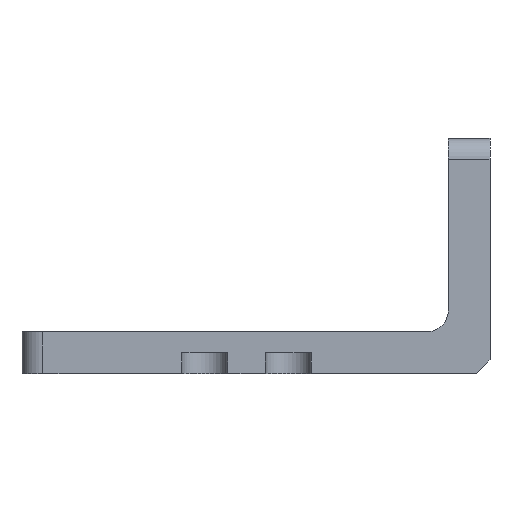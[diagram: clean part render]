
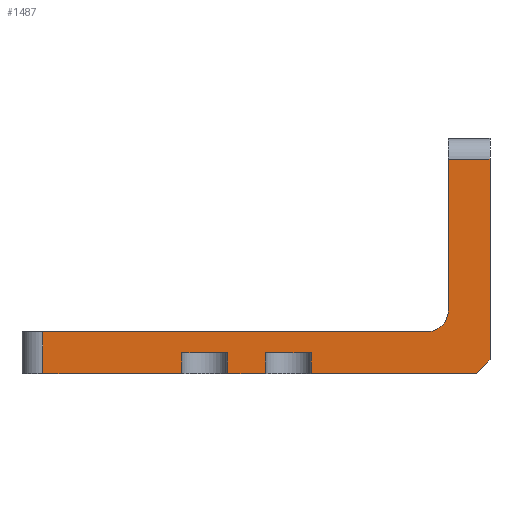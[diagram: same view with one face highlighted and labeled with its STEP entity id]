
A CAD part, left-side view. The second image highlights one B-rep face of the part: STEP entity #1487.
In plain terms, the highlighted planar face has unit normal (-1, 0, 0).
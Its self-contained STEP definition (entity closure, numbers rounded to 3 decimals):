
#52 = ORIENTED_EDGE ( 'NONE', *, *, #1944, .T. ) ;
#63 = AXIS2_PLACEMENT_3D ( 'NONE', #2925, #2602, #2914 ) ;
#64 = CARTESIAN_POINT ( 'NONE',  ( -10., -18.4, 22.5 ) ) ;
#77 = VERTEX_POINT ( 'NONE', #1079 ) ;
#93 = VECTOR ( 'NONE', #656, 1000. ) ;
#135 = CARTESIAN_POINT ( 'NONE',  ( -10., 7.1, 2. ) ) ;
#195 = CARTESIAN_POINT ( 'NONE',  ( -10., 7.1, 6.833 ) ) ;
#235 = VERTEX_POINT ( 'NONE', #2452 ) ;
#267 = LINE ( 'NONE', #2215, #1075 ) ;
#335 = DIRECTION ( 'NONE',  ( 0., -1., 0. ) ) ;
#358 = VECTOR ( 'NONE', #2317, 1000. ) ;
#413 = VERTEX_POINT ( 'NONE', #2299 ) ;
#416 = ORIENTED_EDGE ( 'NONE', *, *, #1093, .F. ) ;
#435 = CARTESIAN_POINT ( 'NONE',  ( -10., -21.1, 0. ) ) ;
#463 = PLANE ( 'NONE',  #63 ) ;
#488 = LINE ( 'NONE', #3096, #93 ) ;
#495 = CARTESIAN_POINT ( 'NONE',  ( -10., -0.9, 0. ) ) ;
#501 = VERTEX_POINT ( 'NONE', #135 ) ;
#506 = VECTOR ( 'NONE', #2797, 1000. ) ;
#518 = DIRECTION ( 'NONE',  ( 0., -1., 0. ) ) ;
#590 = DIRECTION ( 'NONE',  ( 0., 0., -1. ) ) ;
#599 = VERTEX_POINT ( 'NONE', #2358 ) ;
#605 = AXIS2_PLACEMENT_3D ( 'NONE', #1384, #3052, #590 ) ;
#616 = VECTOR ( 'NONE', #1336, 1000. ) ;
#643 = CARTESIAN_POINT ( 'NONE',  ( -10., 2.7, 2. ) ) ;
#656 = DIRECTION ( 'NONE',  ( 0., 1., 0. ) ) ;
#661 = EDGE_CURVE ( 'NONE', #501, #1377, #3536, .T. ) ;
#755 = CARTESIAN_POINT ( 'NONE',  ( -10., 20.4, 4. ) ) ;
#771 = VERTEX_POINT ( 'NONE', #2521 ) ;
#790 = ORIENTED_EDGE ( 'NONE', *, *, #2378, .T. ) ;
#902 = CARTESIAN_POINT ( 'NONE',  ( -10., -5.3, 0. ) ) ;
#985 = CARTESIAN_POINT ( 'NONE',  ( -10., -22.4, 1.3 ) ) ;
#1015 = CARTESIAN_POINT ( 'NONE',  ( -10., 20.4, 4. ) ) ;
#1067 = ORIENTED_EDGE ( 'NONE', *, *, #3515, .T. ) ;
#1075 = VECTOR ( 'NONE', #1948, 1000. ) ;
#1079 = CARTESIAN_POINT ( 'NONE',  ( -10., -0.9, 2. ) ) ;
#1093 = EDGE_CURVE ( 'NONE', #77, #3314, #2622, .T. ) ;
#1116 = VECTOR ( 'NONE', #518, 1000. ) ;
#1141 = VERTEX_POINT ( 'NONE', #3301 ) ;
#1189 = EDGE_CURVE ( 'NONE', #77, #413, #3306, .T. ) ;
#1195 = DIRECTION ( 'NONE',  ( 0., -1., 0. ) ) ;
#1336 = DIRECTION ( 'NONE',  ( 0., -1., 0. ) ) ;
#1377 = VERTEX_POINT ( 'NONE', #643 ) ;
#1384 = CARTESIAN_POINT ( 'NONE',  ( -10., -16.4, 6. ) ) ;
#1398 = CARTESIAN_POINT ( 'NONE',  ( -10., -22.4, 1.3 ) ) ;
#1477 = CARTESIAN_POINT ( 'NONE',  ( -10., -22.4, 4. ) ) ;
#1487 = ADVANCED_FACE ( 'NONE', ( #2671 ), #463, .F. ) ;
#1528 = CARTESIAN_POINT ( 'NONE',  ( -10., -22.4, 0. ) ) ;
#1545 = VECTOR ( 'NONE', #1195, 1000. ) ;
#1575 = VECTOR ( 'NONE', #2135, 1000. ) ;
#1576 = EDGE_LOOP ( 'NONE', ( #3494, #790, #1982, #1793, #1899, #52, #1992, #1067, #1760, #1868, #3094, #2594, #2096, #3154, #2581, #416 ) ) ;
#1626 = VECTOR ( 'NONE', #3175, 1000. ) ;
#1698 = VECTOR ( 'NONE', #2915, 1000. ) ;
#1712 = EDGE_CURVE ( 'NONE', #2765, #3047, #1725, .T. ) ;
#1725 = LINE ( 'NONE', #3209, #616 ) ;
#1760 = ORIENTED_EDGE ( 'NONE', *, *, #2732, .F. ) ;
#1781 = CARTESIAN_POINT ( 'NONE',  ( -10., -0.9, 6.833 ) ) ;
#1793 = ORIENTED_EDGE ( 'NONE', *, *, #3552, .T. ) ;
#1815 = CARTESIAN_POINT ( 'NONE',  ( -10., -22.4, 0. ) ) ;
#1827 = CARTESIAN_POINT ( 'NONE',  ( -10., 2.7, 0. ) ) ;
#1868 = ORIENTED_EDGE ( 'NONE', *, *, #2538, .T. ) ;
#1899 = ORIENTED_EDGE ( 'NONE', *, *, #3256, .F. ) ;
#1944 = EDGE_CURVE ( 'NONE', #1141, #2899, #488, .T. ) ;
#1948 = DIRECTION ( 'NONE',  ( 0., 0., -1. ) ) ;
#1982 = ORIENTED_EDGE ( 'NONE', *, *, #1712, .T. ) ;
#1992 = ORIENTED_EDGE ( 'NONE', *, *, #3469, .T. ) ;
#1998 = CIRCLE ( 'NONE', #605, 2. ) ;
#2012 = VECTOR ( 'NONE', #2440, 1000. ) ;
#2056 = LINE ( 'NONE', #1477, #1545 ) ;
#2067 = VERTEX_POINT ( 'NONE', #985 ) ;
#2071 = VECTOR ( 'NONE', #335, 1000. ) ;
#2096 = ORIENTED_EDGE ( 'NONE', *, *, #661, .T. ) ;
#2127 = EDGE_CURVE ( 'NONE', #1377, #3333, #3352, .T. ) ;
#2129 = LINE ( 'NONE', #195, #1698 ) ;
#2135 = DIRECTION ( 'NONE',  ( 0., 0., -1. ) ) ;
#2146 = CARTESIAN_POINT ( 'NONE',  ( -10., -22.4, 2. ) ) ;
#2215 = CARTESIAN_POINT ( 'NONE',  ( -10., -5.3, 6.833 ) ) ;
#2266 = LINE ( 'NONE', #1528, #2652 ) ;
#2299 = CARTESIAN_POINT ( 'NONE',  ( -10., -5.3, 2. ) ) ;
#2317 = DIRECTION ( 'NONE',  ( 0., 0., -1. ) ) ;
#2358 = CARTESIAN_POINT ( 'NONE',  ( -10., -18.4, 6. ) ) ;
#2378 = EDGE_CURVE ( 'NONE', #413, #2765, #267, .T. ) ;
#2440 = DIRECTION ( 'NONE',  ( 0., 0., -1. ) ) ;
#2442 = LINE ( 'NONE', #1815, #1626 ) ;
#2452 = CARTESIAN_POINT ( 'NONE',  ( -10., 7.1, 0. ) ) ;
#2504 = LINE ( 'NONE', #1398, #506 ) ;
#2521 = CARTESIAN_POINT ( 'NONE',  ( -10., -16.4, 4. ) ) ;
#2538 = EDGE_CURVE ( 'NONE', #3004, #2975, #2729, .T. ) ;
#2581 = ORIENTED_EDGE ( 'NONE', *, *, #3188, .T. ) ;
#2594 = ORIENTED_EDGE ( 'NONE', *, *, #3325, .F. ) ;
#2602 = DIRECTION ( 'NONE',  ( 1., 0., 0. ) ) ;
#2622 = LINE ( 'NONE', #1781, #358 ) ;
#2630 = DIRECTION ( 'NONE',  ( 0., -1., 0. ) ) ;
#2652 = VECTOR ( 'NONE', #2630, 1000. ) ;
#2671 = FACE_OUTER_BOUND ( 'NONE', #1576, .T. ) ;
#2729 = LINE ( 'NONE', #755, #2012 ) ;
#2732 = EDGE_CURVE ( 'NONE', #3004, #771, #2056, .T. ) ;
#2765 = VERTEX_POINT ( 'NONE', #902 ) ;
#2797 = DIRECTION ( 'NONE',  ( 0., -0.707, 0.707 ) ) ;
#2801 = CARTESIAN_POINT ( 'NONE',  ( -10., -22.4, 2. ) ) ;
#2876 = CARTESIAN_POINT ( 'NONE',  ( -10., 2.7, 6.833 ) ) ;
#2899 = VERTEX_POINT ( 'NONE', #3458 ) ;
#2914 = DIRECTION ( 'NONE',  ( 0., 0., -1. ) ) ;
#2915 = DIRECTION ( 'NONE',  ( 0., 0., -1. ) ) ;
#2925 = CARTESIAN_POINT ( 'NONE',  ( -10., -22.4, 4. ) ) ;
#2975 = VERTEX_POINT ( 'NONE', #3206 ) ;
#2997 = EDGE_CURVE ( 'NONE', #2975, #235, #2266, .T. ) ;
#3004 = VERTEX_POINT ( 'NONE', #1015 ) ;
#3024 = LINE ( 'NONE', #3477, #1575 ) ;
#3047 = VERTEX_POINT ( 'NONE', #435 ) ;
#3052 = DIRECTION ( 'NONE',  ( 1., 0., 0. ) ) ;
#3065 = DIRECTION ( 'NONE',  ( 0., 0., -1. ) ) ;
#3094 = ORIENTED_EDGE ( 'NONE', *, *, #2997, .T. ) ;
#3096 = CARTESIAN_POINT ( 'NONE',  ( -10., -22.4, 20.5 ) ) ;
#3154 = ORIENTED_EDGE ( 'NONE', *, *, #2127, .T. ) ;
#3162 = DIRECTION ( 'NONE',  ( 0., 0., -1. ) ) ;
#3175 = DIRECTION ( 'NONE',  ( 0., -1., 0. ) ) ;
#3188 = EDGE_CURVE ( 'NONE', #3333, #3314, #2442, .T. ) ;
#3206 = CARTESIAN_POINT ( 'NONE',  ( -10., 20.4, 0. ) ) ;
#3209 = CARTESIAN_POINT ( 'NONE',  ( -10., -22.4, 0. ) ) ;
#3247 = VECTOR ( 'NONE', #3065, 1000. ) ;
#3256 = EDGE_CURVE ( 'NONE', #1141, #2067, #3024, .T. ) ;
#3264 = VECTOR ( 'NONE', #3162, 1000. ) ;
#3301 = CARTESIAN_POINT ( 'NONE',  ( -10., -22.4, 20.5 ) ) ;
#3306 = LINE ( 'NONE', #2146, #1116 ) ;
#3314 = VERTEX_POINT ( 'NONE', #495 ) ;
#3325 = EDGE_CURVE ( 'NONE', #501, #235, #2129, .T. ) ;
#3333 = VERTEX_POINT ( 'NONE', #1827 ) ;
#3352 = LINE ( 'NONE', #2876, #3264 ) ;
#3421 = LINE ( 'NONE', #64, #3247 ) ;
#3458 = CARTESIAN_POINT ( 'NONE',  ( -10., -18.4, 20.5 ) ) ;
#3469 = EDGE_CURVE ( 'NONE', #2899, #599, #3421, .T. ) ;
#3477 = CARTESIAN_POINT ( 'NONE',  ( -10., -22.4, 4. ) ) ;
#3494 = ORIENTED_EDGE ( 'NONE', *, *, #1189, .T. ) ;
#3515 = EDGE_CURVE ( 'NONE', #599, #771, #1998, .T. ) ;
#3536 = LINE ( 'NONE', #2801, #2071 ) ;
#3552 = EDGE_CURVE ( 'NONE', #3047, #2067, #2504, .T. ) ;
